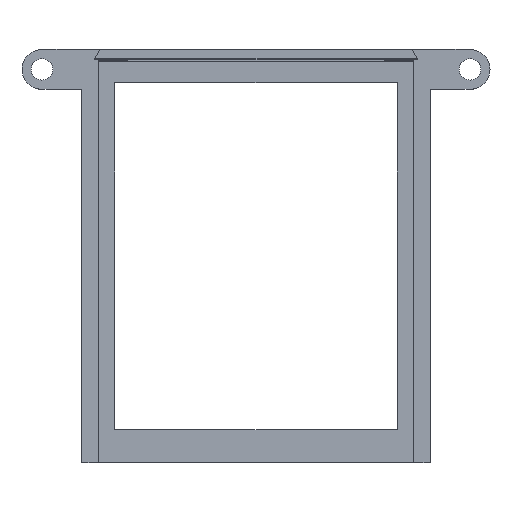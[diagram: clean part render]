
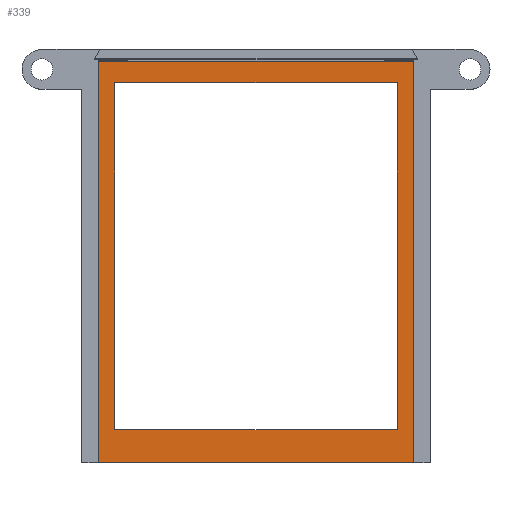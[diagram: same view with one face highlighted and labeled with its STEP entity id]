
A CAD part, top view. The second image highlights one B-rep face of the part: STEP entity #339.
In plain terms, the highlighted planar face has unit normal (0, 0, 1).
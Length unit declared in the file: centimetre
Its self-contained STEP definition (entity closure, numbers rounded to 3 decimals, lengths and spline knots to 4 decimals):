
#11 = VERTEX_POINT ( 'NONE', #112 ) ;
#34 = EDGE_CURVE ( 'NONE', #1124, #256, #211, .T. ) ;
#37 = CARTESIAN_POINT ( 'NONE',  ( 4.25, -11.45, 0.4 ) ) ;
#45 = CARTESIAN_POINT ( 'NONE',  ( -4.75, -12.45, 0.4 ) ) ;
#68 = LINE ( 'NONE', #290, #385 ) ;
#75 = DIRECTION ( 'NONE',  ( 0., 1., 0. ) ) ;
#84 = CARTESIAN_POINT ( 'NONE',  ( 4.25, -1., 0.4 ) ) ;
#85 = CARTESIAN_POINT ( 'NONE',  ( -4.25, -11.45, 0.4 ) ) ;
#99 = AXIS2_PLACEMENT_3D ( 'NONE', #594, #1053, #1378 ) ;
#112 = CARTESIAN_POINT ( 'NONE',  ( -4.75, -0.3464, 0.4 ) ) ;
#190 = DIRECTION ( 'NONE',  ( 0., 1., 0. ) ) ;
#211 = LINE ( 'NONE', #550, #834 ) ;
#215 = DIRECTION ( 'NONE',  ( 0., -1., 0. ) ) ;
#256 = VERTEX_POINT ( 'NONE', #45 ) ;
#257 = CARTESIAN_POINT ( 'NONE',  ( -4.25, -1., 0.4 ) ) ;
#259 = CARTESIAN_POINT ( 'NONE',  ( 4.75, -12.45, 0.4 ) ) ;
#260 = PLANE ( 'NONE',  #99 ) ;
#273 = EDGE_CURVE ( 'NONE', #1402, #781, #841, .T. ) ;
#290 = CARTESIAN_POINT ( 'NONE',  ( 4.25, -11.45, 0.4 ) ) ;
#292 = VERTEX_POINT ( 'NONE', #720 ) ;
#331 = ORIENTED_EDGE ( 'NONE', *, *, #589, .F. ) ;
#339 = ADVANCED_FACE ( 'NONE', ( #1372, #1365 ), #260, .F. ) ;
#385 = VECTOR ( 'NONE', #876, 100. ) ;
#405 = LINE ( 'NONE', #1388, #1389 ) ;
#433 = DIRECTION ( 'NONE',  ( -1., 0., 0. ) ) ;
#457 = EDGE_CURVE ( 'NONE', #292, #11, #970, .T. ) ;
#470 = VERTEX_POINT ( 'NONE', #85 ) ;
#477 = DIRECTION ( 'NONE',  ( -1., 0., 0. ) ) ;
#497 = EDGE_CURVE ( 'NONE', #470, #738, #68, .T. ) ;
#498 = CARTESIAN_POINT ( 'NONE',  ( 4.25, -1., 0.4 ) ) ;
#516 = ORIENTED_EDGE ( 'NONE', *, *, #1126, .T. ) ;
#518 = CARTESIAN_POINT ( 'NONE',  ( 4.75, -23.3169, 0.4 ) ) ;
#550 = CARTESIAN_POINT ( 'NONE',  ( 4.75, -12.45, 0.4 ) ) ;
#575 = ORIENTED_EDGE ( 'NONE', *, *, #273, .F. ) ;
#578 = ORIENTED_EDGE ( 'NONE', *, *, #1141, .F. ) ;
#589 = EDGE_CURVE ( 'NONE', #781, #470, #637, .T. ) ;
#594 = CARTESIAN_POINT ( 'NONE',  ( 4.75, -23.3169, 0.4 ) ) ;
#608 = VECTOR ( 'NONE', #477, 100. ) ;
#636 = VECTOR ( 'NONE', #190, 100. ) ;
#637 = LINE ( 'NONE', #1074, #1376 ) ;
#720 = CARTESIAN_POINT ( 'NONE',  ( 4.75, -0.3464, 0.4 ) ) ;
#732 = VECTOR ( 'NONE', #75, 100. ) ;
#738 = VERTEX_POINT ( 'NONE', #37 ) ;
#755 = DIRECTION ( 'NONE',  ( -1., 0., 0. ) ) ;
#780 = EDGE_LOOP ( 'NONE', ( #1163, #516, #1253, #904 ) ) ;
#781 = VERTEX_POINT ( 'NONE', #257 ) ;
#834 = VECTOR ( 'NONE', #433, 100. ) ;
#841 = LINE ( 'NONE', #498, #608 ) ;
#856 = DIRECTION ( 'NONE',  ( 0., 1., 0. ) ) ;
#876 = DIRECTION ( 'NONE',  ( 1., 0., 0. ) ) ;
#904 = ORIENTED_EDGE ( 'NONE', *, *, #908, .F. ) ;
#908 = EDGE_CURVE ( 'NONE', #256, #11, #405, .T. ) ;
#970 = LINE ( 'NONE', #1399, #1348 ) ;
#990 = ORIENTED_EDGE ( 'NONE', *, *, #497, .F. ) ;
#1037 = EDGE_LOOP ( 'NONE', ( #575, #578, #990, #331 ) ) ;
#1053 = DIRECTION ( 'NONE',  ( 0., 0., -1. ) ) ;
#1067 = CARTESIAN_POINT ( 'NONE',  ( 4.25, -1., 0.4 ) ) ;
#1074 = CARTESIAN_POINT ( 'NONE',  ( -4.25, -1., 0.4 ) ) ;
#1124 = VERTEX_POINT ( 'NONE', #259 ) ;
#1126 = EDGE_CURVE ( 'NONE', #1124, #292, #1359, .T. ) ;
#1141 = EDGE_CURVE ( 'NONE', #738, #1402, #1185, .T. ) ;
#1163 = ORIENTED_EDGE ( 'NONE', *, *, #34, .F. ) ;
#1185 = LINE ( 'NONE', #84, #636 ) ;
#1253 = ORIENTED_EDGE ( 'NONE', *, *, #457, .T. ) ;
#1348 = VECTOR ( 'NONE', #755, 100. ) ;
#1359 = LINE ( 'NONE', #518, #732 ) ;
#1365 = FACE_OUTER_BOUND ( 'NONE', #780, .T. ) ;
#1372 = FACE_BOUND ( 'NONE', #1037, .T. ) ;
#1376 = VECTOR ( 'NONE', #215, 100. ) ;
#1378 = DIRECTION ( 'NONE',  ( -1., 0., 0. ) ) ;
#1388 = CARTESIAN_POINT ( 'NONE',  ( -4.75, -23.3169, 0.4 ) ) ;
#1389 = VECTOR ( 'NONE', #856, 100. ) ;
#1399 = CARTESIAN_POINT ( 'NONE',  ( 4.75, -0.3464, 0.4 ) ) ;
#1402 = VERTEX_POINT ( 'NONE', #1067 ) ;
